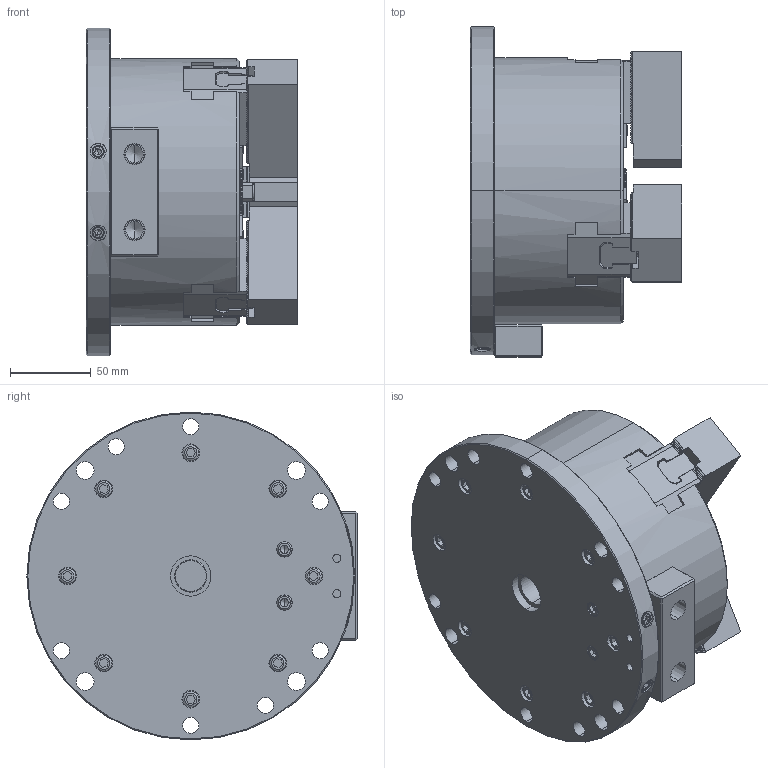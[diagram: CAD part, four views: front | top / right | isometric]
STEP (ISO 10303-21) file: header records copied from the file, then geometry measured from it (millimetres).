
FILE_DESCRIPTION (( 'STEP AP214' ), '1' );
FILE_NAME ('AS06_61P257186-3_OC.STEP', '2020-06-23T02:33:11', ( '' ), ( '' ), 'SwSTEP 2.0', 'SolidWorks 2017', '' );
FILE_SCHEMA (( 'AUTOMOTIVE_DESIGN' ));
Length unit declared in the file: millimetre
Products named in the file (5): AS06_61P257186-3_OC; 61P400822-4_TNUT; Part1^61P222085-9_AS06_ASSY; 61P302540-2_SOFTJAW; Bアナツキ M10×30
Assembly tree (13 placements, depth 2):
  AS06_61P257186-3_OC
    61P302540-2_SOFTJAW  x3
    61P400822-4_TNUT  x3
    Bアナツキ M10×30  x6
    Part1^61P222085-9_AS06_ASSY
Bounding box: 131.2 x 204.5 x 203 mm (x, y, z)
Volume: 2370783.8 mm3; surface area: 231029.9 mm2
Topology: 15 solids, 45 shells, 3425 faces, 9443 edges, 6196 vertices
Faces by surface type: plane 2100, cylinder 1009, cone 210, bspline 92, torus 10, sphere 4
Entity records: 81707 total; most frequent: CARTESIAN_POINT 19460, ORIENTED_EDGE 13400, DIRECTION 12260, EDGE_CURVE 6700, VECTOR 4766, LINE 4766, VERTEX_POINT 4399, AXIS2_PLACEMENT_3D 3747
